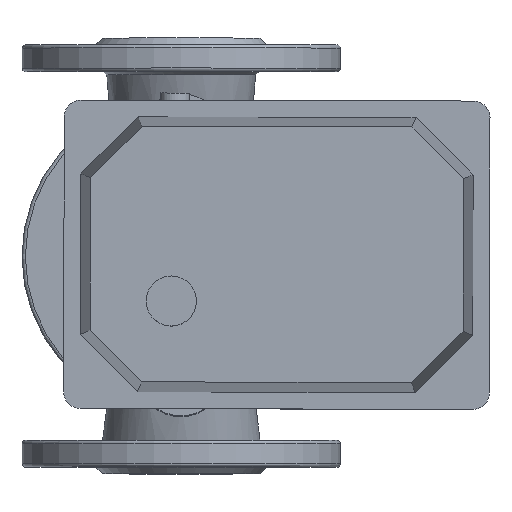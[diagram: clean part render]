
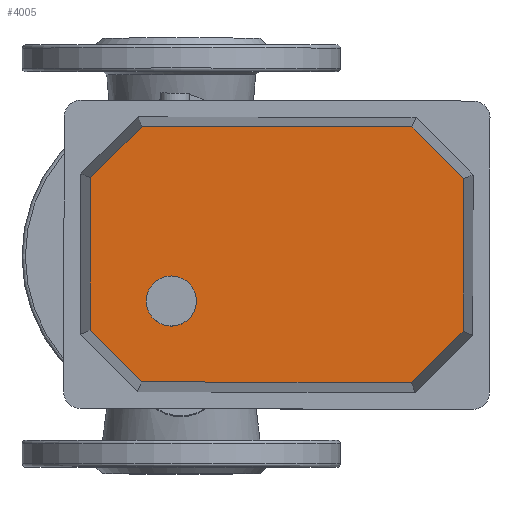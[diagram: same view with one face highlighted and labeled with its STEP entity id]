
A CAD part, top view. The second image highlights one B-rep face of the part: STEP entity #4005.
In plain terms, the highlighted planar face has unit normal (0, 0, 1) as drawn and (0, 0, -1) by its records, which use the part's own axes.
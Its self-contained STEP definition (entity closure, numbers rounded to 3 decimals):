
#307=LINE('',#7917,#625);
#308=LINE('',#7919,#626);
#309=LINE('',#7921,#627);
#310=LINE('',#7923,#628);
#311=LINE('',#7925,#629);
#312=LINE('',#7927,#630);
#313=LINE('',#7929,#631);
#314=LINE('',#7930,#632);
#625=VECTOR('',#5487,45.47);
#626=VECTOR('',#5488,21.754);
#627=VECTOR('',#5489,80.47);
#628=VECTOR('',#5490,21.754);
#629=VECTOR('',#5491,45.47);
#630=VECTOR('',#5492,21.754);
#631=VECTOR('',#5493,80.47);
#632=VECTOR('',#5494,21.754);
#855=PLANE('',#4411);
#999=FACE_BOUND('',#1600,.T.);
#1227=FACE_OUTER_BOUND('',#1599,.T.);
#1599=EDGE_LOOP('',(#3621,#3622,#3623,#3624,#3625,#3626,#3627,#3628));
#1600=EDGE_LOOP('',(#3629));
#1786=CIRCLE('',#4410,7.479);
#2141=VERTEX_POINT('',#7912);
#2142=VERTEX_POINT('',#7915);
#2143=VERTEX_POINT('',#7916);
#2144=VERTEX_POINT('',#7918);
#2145=VERTEX_POINT('',#7920);
#2146=VERTEX_POINT('',#7922);
#2147=VERTEX_POINT('',#7924);
#2148=VERTEX_POINT('',#7926);
#2149=VERTEX_POINT('',#7928);
#2643=EDGE_CURVE('',#2141,#2141,#1786,.T.);
#2644=EDGE_CURVE('',#2142,#2143,#307,.T.);
#2645=EDGE_CURVE('',#2143,#2144,#308,.T.);
#2646=EDGE_CURVE('',#2144,#2145,#309,.T.);
#2647=EDGE_CURVE('',#2145,#2146,#310,.T.);
#2648=EDGE_CURVE('',#2146,#2147,#311,.T.);
#2649=EDGE_CURVE('',#2147,#2148,#312,.T.);
#2650=EDGE_CURVE('',#2148,#2149,#313,.T.);
#2651=EDGE_CURVE('',#2149,#2142,#314,.T.);
#3621=ORIENTED_EDGE('',*,*,#2644,.T.);
#3622=ORIENTED_EDGE('',*,*,#2645,.T.);
#3623=ORIENTED_EDGE('',*,*,#2646,.T.);
#3624=ORIENTED_EDGE('',*,*,#2647,.T.);
#3625=ORIENTED_EDGE('',*,*,#2648,.T.);
#3626=ORIENTED_EDGE('',*,*,#2649,.T.);
#3627=ORIENTED_EDGE('',*,*,#2650,.T.);
#3628=ORIENTED_EDGE('',*,*,#2651,.T.);
#3629=ORIENTED_EDGE('',*,*,#2643,.T.);
#4005=ADVANCED_FACE('',(#1227,#999),#855,.T.);
#4410=AXIS2_PLACEMENT_3D('',#7913,#5483,#5484);
#4411=AXIS2_PLACEMENT_3D('',#7914,#5485,#5486);
#5483=DIRECTION('center_axis',(0.,0.,
1.));
#5484=DIRECTION('ref_axis',(-1.,-0.003,0.));
#5485=DIRECTION('center_axis',(0.,0.,-1.));
#5486=DIRECTION('ref_axis',(-1.,0.,0.));
#5487=DIRECTION('',(0.003,-1.,0.));
#5488=DIRECTION('',(-0.705,-0.709,0.));
#5489=DIRECTION('',(-1.,-0.003,0.));
#5490=DIRECTION('',(-0.709,0.705,0.));
#5491=DIRECTION('',(-0.003,1.,0.));
#5492=DIRECTION('',(0.705,0.709,0.));
#5493=DIRECTION('',(1.,0.003,0.));
#5494=DIRECTION('',(0.709,-0.705,0.));
#7912=CARTESIAN_POINT('',(776.228,666.82,601.18));
#7913=CARTESIAN_POINT('Origin',(768.749,666.801,601.18));
#7914=CARTESIAN_POINT('Origin',(737.265,642.497,601.18));
#7915=CARTESIAN_POINT('',(792.824,703.599,601.18));
#7916=CARTESIAN_POINT('',(792.942,658.129,601.18));
#7917=CARTESIAN_POINT('',(792.824,703.599,601.18));
#7918=CARTESIAN_POINT('',(777.599,642.706,601.18));
#7919=CARTESIAN_POINT('',(792.942,658.129,601.18));
#7920=CARTESIAN_POINT('',(697.13,642.497,601.18));
#7921=CARTESIAN_POINT('',(777.599,642.706,601.18));
#7922=CARTESIAN_POINT('',(681.707,657.839,601.18));
#7923=CARTESIAN_POINT('',(697.13,642.497,601.18));
#7924=CARTESIAN_POINT('',(681.589,703.309,601.18));
#7925=CARTESIAN_POINT('',(681.707,657.839,601.18));
#7926=CARTESIAN_POINT('',(696.931,718.732,601.18));
#7927=CARTESIAN_POINT('',(681.589,703.309,601.18));
#7928=CARTESIAN_POINT('',(777.401,718.941,601.18));
#7929=CARTESIAN_POINT('',(696.931,718.732,601.18));
#7930=CARTESIAN_POINT('',(777.401,718.941,601.18));
